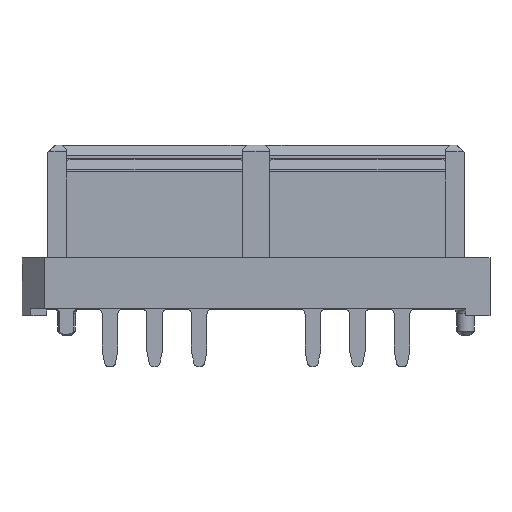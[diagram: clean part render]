
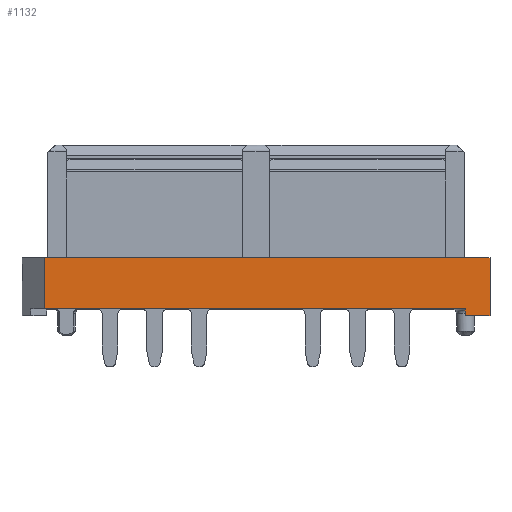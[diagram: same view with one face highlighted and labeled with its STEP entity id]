
A CAD part, top view. The second image highlights one B-rep face of the part: STEP entity #1132.
In plain terms, the highlighted planar face has unit normal (0, 0, 1).
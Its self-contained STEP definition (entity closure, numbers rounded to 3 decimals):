
#1132=ADVANCED_FACE('',(#1812),#1391,.T.);
#1391=PLANE('',#8962);
#1812=FACE_OUTER_BOUND('',#2239,.T.);
#2239=EDGE_LOOP('',(#4392,#4393,#4394,#4395,#4396,#4397));
#4392=ORIENTED_EDGE('',*,*,#6667,.T.);
#4393=ORIENTED_EDGE('',*,*,#5506,.F.);
#4394=ORIENTED_EDGE('',*,*,#6666,.F.);
#4395=ORIENTED_EDGE('',*,*,#6668,.T.);
#4396=ORIENTED_EDGE('',*,*,#6669,.F.);
#4397=ORIENTED_EDGE('',*,*,#6670,.F.);
#4698=VERTEX_POINT('',#11186);
#4699=VERTEX_POINT('',#11187);
#5480=VERTEX_POINT('',#14088);
#5481=VERTEX_POINT('',#14092);
#5482=VERTEX_POINT('',#14094);
#5483=VERTEX_POINT('',#14096);
#5506=EDGE_CURVE('',#4698,#4699,#6713,.T.);
#6666=EDGE_CURVE('',#5480,#4698,#7447,.T.);
#6667=EDGE_CURVE('',#5481,#4699,#7448,.T.);
#6668=EDGE_CURVE('',#5480,#5482,#7449,.T.);
#6669=EDGE_CURVE('',#5483,#5482,#7450,.T.);
#6670=EDGE_CURVE('',#5481,#5483,#7451,.T.);
#6713=LINE('',#11185,#7492);
#7447=LINE('',#14089,#8245);
#7448=LINE('',#14091,#8246);
#7449=LINE('',#14093,#8247);
#7450=LINE('',#14095,#8248);
#7451=LINE('',#14097,#8249);
#7492=VECTOR('',#8991,1.);
#8245=VECTOR('',#11090,1.);
#8246=VECTOR('',#11093,1.);
#8247=VECTOR('',#11094,1.);
#8248=VECTOR('',#11095,1.);
#8249=VECTOR('',#11096,1.);
#8962=AXIS2_PLACEMENT_3D('',#14098,#11097,#11098);
#8991=DIRECTION('',(0.,1.,0.));
#11090=DIRECTION('',(-1.,0.,0.));
#11093=DIRECTION('',(1.,0.,0.));
#11094=DIRECTION('',(0.,1.,0.));
#11095=DIRECTION('',(1.,0.,0.));
#11096=DIRECTION('',(0.,1.,0.));
#11097=DIRECTION('',(0.,0.,1.));
#11098=DIRECTION('',(1.,0.,0.));
#11185=CARTESIAN_POINT('',(9.4,0.,2.8));
#11186=CARTESIAN_POINT('',(9.4,0.,2.8));
#11187=CARTESIAN_POINT('',(9.4,0.3,2.8));
#14088=CARTESIAN_POINT('',(10.5,0.,2.8));
#14089=CARTESIAN_POINT('',(10.5,0.,2.8));
#14091=CARTESIAN_POINT('',(-9.5,0.3,2.8));
#14092=CARTESIAN_POINT('',(-9.5,0.3,2.8));
#14093=CARTESIAN_POINT('',(10.5,0.,2.8));
#14094=CARTESIAN_POINT('',(10.5,2.6,2.8));
#14095=CARTESIAN_POINT('',(-9.5,2.6,2.8));
#14096=CARTESIAN_POINT('',(-9.5,2.6,2.8));
#14097=CARTESIAN_POINT('',(-9.5,0.3,2.8));
#14098=CARTESIAN_POINT('',(-9.5,0.,2.8));
